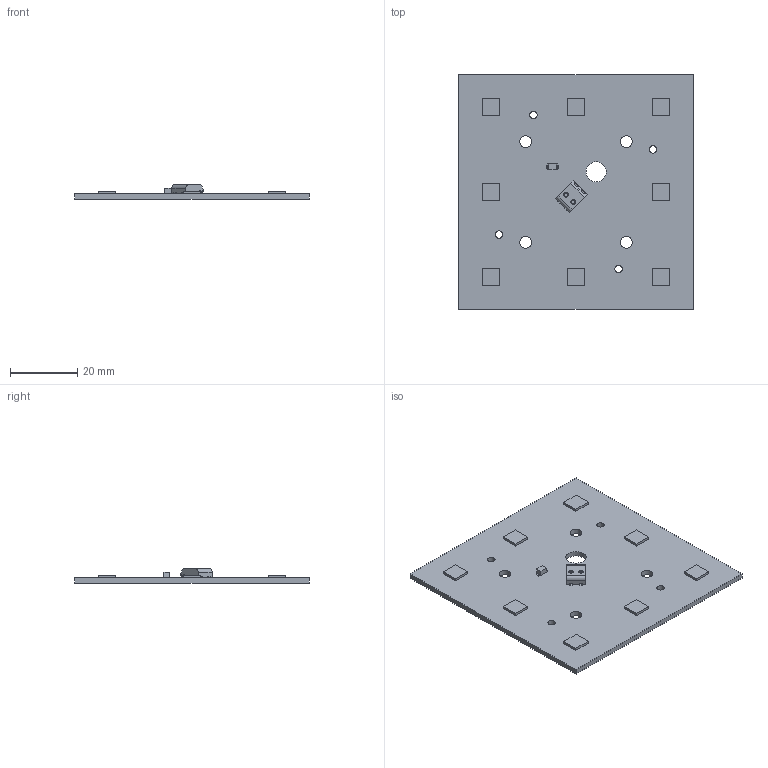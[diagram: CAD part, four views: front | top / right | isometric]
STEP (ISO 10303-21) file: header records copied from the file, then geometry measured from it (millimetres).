
FILE_DESCRIPTION(('Open CASCADE Model'),'2;1');
FILE_NAME('Open CASCADE Shape Model','2025-11-18T13:11:37',('Author'),( 'Open CASCADE'),'Open CASCADE STEP processor 7.5','Open CASCADE 7.5' ,'Unknown');
FILE_SCHEMA(('AUTOMOTIVE_DESIGN { 1 0 10303 214 1 1 1 1 }'));
Length unit declared in the file: millimetre
Products named in the file (23): PCB; Board; Open CASCADE STEP translator 7.5 1.1.1; D9; SMF TVS Diodes; J1; 2059-302_998-403; D8; 6255590368; Extruded; D7; 6255591168; D6; 6583032048; D5; 6255583248; D4; D3; D2; D1
Assembly tree (26 placements, depth 4):
  PCB
    Board
      Open CASCADE STEP translator 7.5 1.1.1
    D9
      SMF TVS Diodes
    J1
      2059-302_998-403
    D8
      6255590368
        Extruded
    D7
      6255591168
        Extruded
    D6
      6583032048
        Extruded
    D5
      6255583248
        Extruded
    D4
      6255590368
        Extruded
    D3
      6255591168
        Extruded
    D2
      6583032048
        Extruded
    D1
      6255583248
        Extruded
Bounding box: 70 x 70 x 4.25 mm (x, y, z)
Volume: 7969.7 mm3; surface area: 10982.7 mm2
Topology: 11 solids, 11 shells, 177 faces, 441 edges, 292 vertices
Faces by surface type: plane 137, cylinder 38, torus 2
Full cylindrical faces by diameter (mm): 1.1 x2, 1.6 x2, 2.2 x4, 3.5 x4, 6 x1
Entity records: 5820 total; most frequent: CARTESIAN_POINT 881, DIRECTION 793, ORIENTED_EDGE 762, EDGE_CURVE 381, LINE 293, VECTOR 293, VERTEX_POINT 252, AXIS2_PLACEMENT_3D 250
